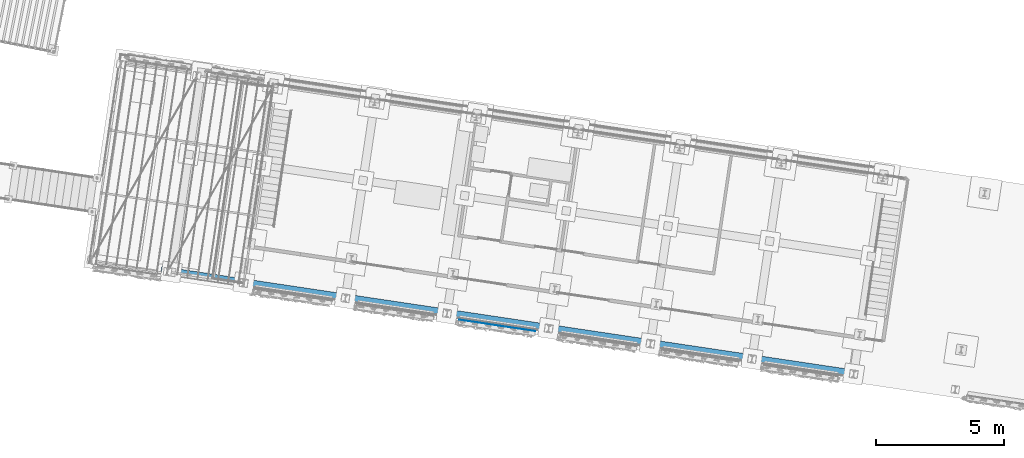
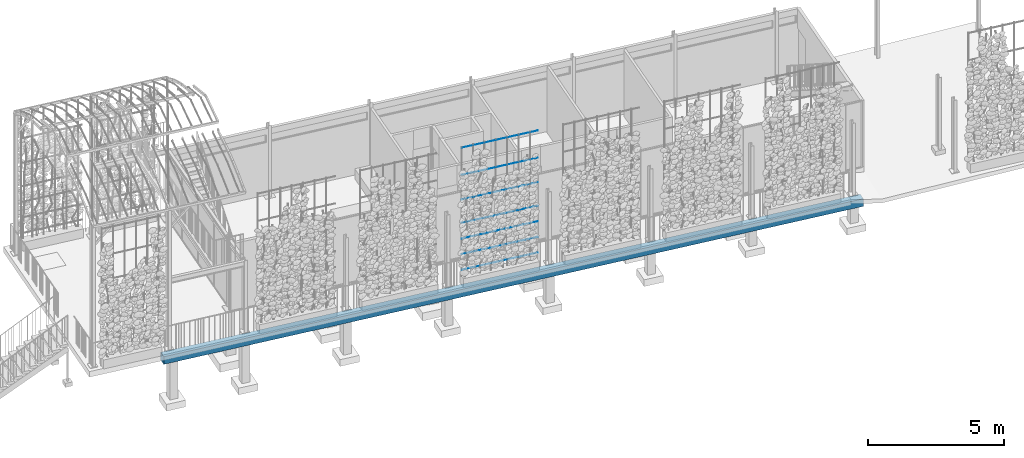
# One storey, part 59 of 142: 7 members, 1 beam, 2 elements without a shape of their own.
"""IFC4 building model written with IfcOpenShell, lengths in metres."""

from ifc_helpers import new_model, si_unit, direction, frame, origin_with_axes, place, context, subcontext, project, spatial, polyline, circle, outline, extrude, material, material_profile, profile_set, profile_usage, type_object, element, aggregate, save


model = new_model("IFC4")

# Units and contexts
model_context = context("Model", 3, precision=1e-05, world=origin_with_axes(), true_north=direction((0.0, 1.0)))
body_context = subcontext(model_context, "Body", "Model", "MODEL_VIEW")
ifc_project = project(units=[si_unit("AREAUNIT", "SQUARE_METRE"), si_unit("VOLUMEUNIT", "CUBIC_METRE"), si_unit("LENGTHUNIT", "METRE")], contexts=[model_context])

# Site, building, storey
site_placement = place(None, origin_with_axes())
site = spatial("IfcSite", under=ifc_project, at=site_placement, Name="Lares · Rua das Mercês · artigo 4771")
building_placement = place(site_placement, frame((15.0, 9.7, 14.65), z_axis=(0.0, 0.0, 1.0), x_axis=(0.989015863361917, -0.147809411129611, 0.0)))
building = spatial("IfcBuilding", under=site, at=building_placement, Name="Casa Sobreposta")
storey_placement = place(building_placement, origin_with_axes())
storey = spatial("IfcBuildingStorey", under=building, at=storey_placement, Name="00 · Habitação e estacionamento", Elevation=14.65)

# Assembly, members
assembly_1_placement = place(storey_placement, origin_with_axes())
assembly_1 = element("IfcElementAssembly", 1, at=assembly_1_placement, inside=storey, Name="Fachada sul e pátio · estrutura e trepadeiras", ObjectType="LIVING_SHADE_TRELLIS", PredefinedType="USERDEFINED")
ifc_material_1 = material(Name="Aço galvanizado / Stahl verzinkt", Category="steel")
ifc_material_profile = material_profile(ifc_material_1, circle(Radius=0.002))
ifc_profile_set = profile_set([ifc_material_profile], Name="D0.004")
ifc_profile_usage_1 = profile_usage(ifc_profile_set)
member_type = type_object("IfcMemberType", Name="D0.004 / galvanized", PredefinedType="NOTDEFINED", material=ifc_profile_set)
member_1_placement = place(assembly_1_placement, frame((8.5, -1.61, 0.65), z_axis=(1.0, 0.0, 0.0), x_axis=(0.0, -1.0, 0.0)))
member_1 = element("IfcMember", 2, at=member_1_placement, type_object=member_type, material=ifc_profile_usage_1, Name="Trepadeiras · fio horizontal", context=body_context, shape_type="SweptSolid", body=[
    extrude(circle(Radius=0.002), origin_with_axes(), (0.0, 0.0, 1.0), 3.0),
])
ifc_profile_usage_2 = profile_usage(ifc_profile_set)
member_2_placement = place(assembly_1_placement, frame((8.5, -1.61, 1.35), z_axis=(1.0, 0.0, 0.0), x_axis=(0.0, -1.0, 0.0)))
member_2 = element("IfcMember", 3, at=member_2_placement, type_object=member_type, material=ifc_profile_usage_2, Name="Trepadeiras · fio horizontal", context=body_context, shape_type="SweptSolid", body=[
    extrude(circle(Radius=0.002), origin_with_axes(), (0.0, 0.0, 1.0), 3.0),
])
ifc_profile_usage_3 = profile_usage(ifc_profile_set)
member_3_placement = place(assembly_1_placement, frame((8.5, -1.61, 2.05), z_axis=(1.0, 0.0, 0.0), x_axis=(0.0, -1.0, 0.0)))
member_3 = element("IfcMember", 4, at=member_3_placement, type_object=member_type, material=ifc_profile_usage_3, Name="Trepadeiras · fio horizontal", context=body_context, shape_type="SweptSolid", body=[
    extrude(circle(Radius=0.002), origin_with_axes(), (0.0, 0.0, 1.0), 3.0),
])
ifc_profile_usage_4 = profile_usage(ifc_profile_set)
member_4_placement = place(assembly_1_placement, frame((8.5, -1.61, 2.75), z_axis=(1.0, 0.0, 0.0), x_axis=(0.0, -1.0, 0.0)))
member_4 = element("IfcMember", 5, at=member_4_placement, type_object=member_type, material=ifc_profile_usage_4, Name="Trepadeiras · fio horizontal", context=body_context, shape_type="SweptSolid", body=[
    extrude(circle(Radius=0.002), origin_with_axes(), (0.0, 0.0, 1.0), 3.0),
])
ifc_profile_usage_5 = profile_usage(ifc_profile_set)
member_5_placement = place(assembly_1_placement, frame((8.5, -1.61, 3.8), z_axis=(1.0, 0.0, 0.0), x_axis=(0.0, -1.0, 0.0)))
member_5 = element("IfcMember", 6, at=member_5_placement, type_object=member_type, material=ifc_profile_usage_5, Name="Trepadeiras · fio horizontal", context=body_context, shape_type="SweptSolid", body=[
    extrude(circle(Radius=0.002), origin_with_axes(), (0.0, 0.0, 1.0), 3.0),
])
ifc_profile_usage_6 = profile_usage(ifc_profile_set)
member_6_placement = place(assembly_1_placement, frame((8.5, -1.61, 4.9), z_axis=(1.0, 0.0, 0.0), x_axis=(0.0, -1.0, 0.0)))
member_6 = element("IfcMember", 7, at=member_6_placement, type_object=member_type, material=ifc_profile_usage_6, Name="Trepadeiras · fio horizontal", context=body_context, shape_type="SweptSolid", body=[
    extrude(circle(Radius=0.002), origin_with_axes(), (0.0, 0.0, 1.0), 3.0),
])
ifc_profile_usage_7 = profile_usage(ifc_profile_set)
member_7_placement = place(assembly_1_placement, frame((8.5, -1.61, 6.12), z_axis=(1.0, 0.0, 0.0), x_axis=(0.0, -1.0, 0.0)))
member_7 = element("IfcMember", 8, at=member_7_placement, type_object=member_type, material=ifc_profile_usage_7, Name="Trepadeiras · fio horizontal", context=body_context, shape_type="SweptSolid", body=[
    extrude(circle(Radius=0.002), origin_with_axes(), (0.0, 0.0, 1.0), 3.0),
])
aggregate(assembly_1, [member_1, member_2, member_3, member_4, member_5, member_6, member_7])

# Assembly, beam
assembly_2_placement = place(storey_placement, origin_with_axes())
assembly_2 = element("IfcElementAssembly", 9, at=assembly_2_placement, inside=storey, Name="Pódio · terraço, casa térrea e cisterna", ObjectType="CISTERN_PODIUM", PredefinedType="USERDEFINED")
ifc_material_2 = material(Name="Betão armado / Stahlbeton", Category="concrete")
beam_placement = place(assembly_2_placement, frame((0.0, 0.0, -0.59), z_axis=(0.0, 0.0, 1.0), x_axis=(1.0, 0.0, 0.0)))
beam = element("IfcBeam", 10, at=beam_placement, material=ifc_material_2, Name="Pódio suspenso · viga longitudinal", context=body_context, shape_type="SweptSolid", body=[
    extrude(outline(polyline([(24.36, -1.59), (24.36, -1.27), (-3.25, -1.27), (-3.25, -1.59), (24.36, -1.59)])), origin_with_axes(), (0.0, 0.0, 1.0), 0.34),
])
aggregate(assembly_2, [beam])

save(model, "model.ifc")
